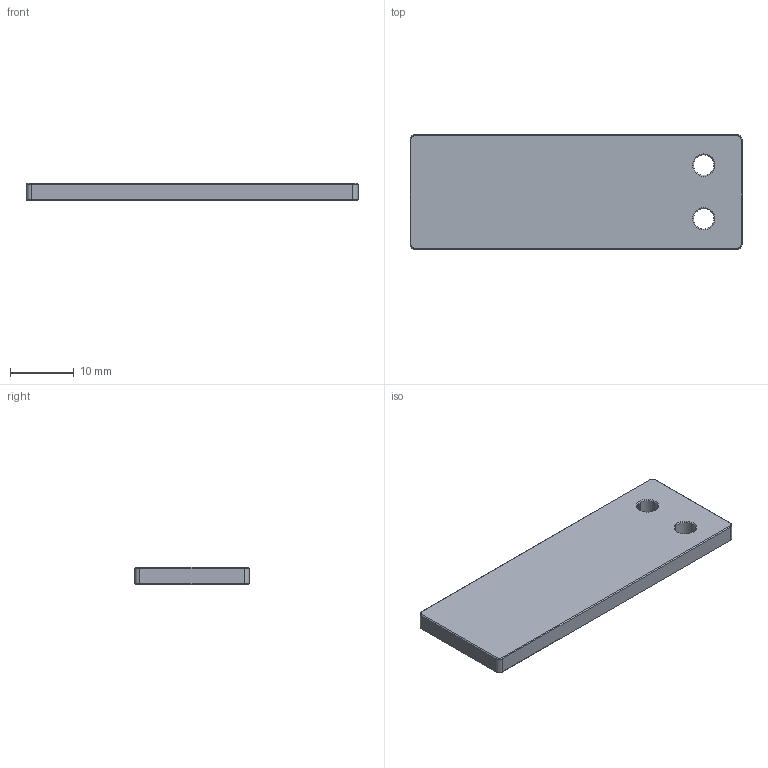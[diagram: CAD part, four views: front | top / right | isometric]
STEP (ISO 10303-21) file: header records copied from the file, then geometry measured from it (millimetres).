
FILE_DESCRIPTION(('Open CASCADE Model'),'2;1');
FILE_NAME('Open CASCADE Shape Model','2026-08-15T08:52:40',('Author'),( 'Open CASCADE'),'Open CASCADE STEP processor 7.9','Open CASCADE 7.9' ,'Unknown');
FILE_SCHEMA(('AUTOMOTIVE_DESIGN { 1 0 10303 214 1 1 1 1 }'));
Length unit declared in the file: millimetre
Products named in the file (1): Open CASCADE STEP translator 7.9 7
Bounding box: 52 x 18 x 2.8 mm (x, y, z)
Volume: 2495.3 mm3; surface area: 2350.5 mm2
Topology: 1 solids, 1 shells, 39 faces, 94 edges, 56 vertices
Faces by surface type: plane 19, cone 14, cylinder 6
Full cylindrical faces by diameter (mm): 3.2 x2
Entity records: 2336 total; most frequent: CARTESIAN_POINT 460, DIRECTION 342, ORIENTED_EDGE 188, LINE 188, VECTOR 188, PCURVE 188, DEFINITIONAL_REPRESENTATION 188, EDGE_CURVE 94
